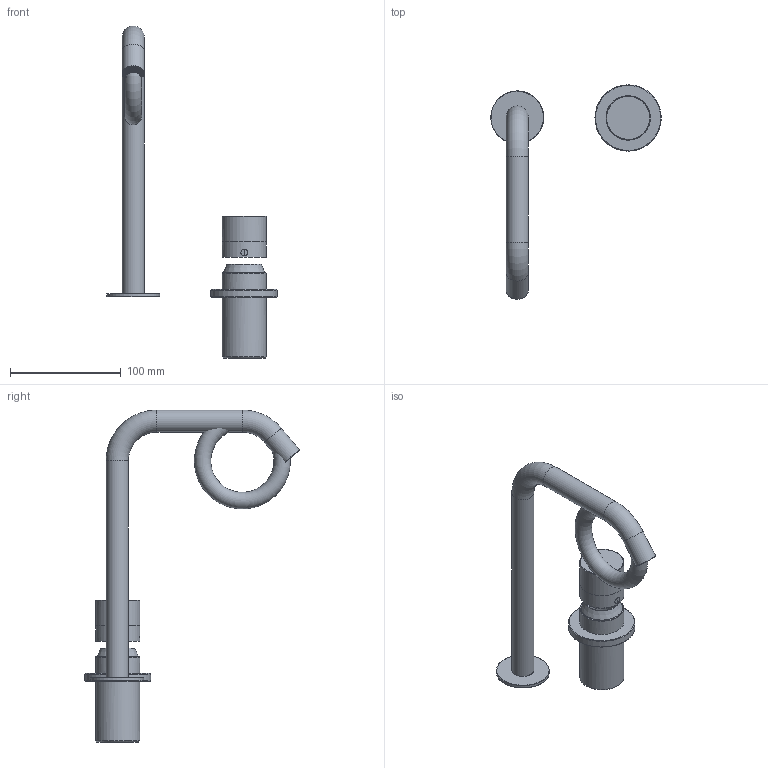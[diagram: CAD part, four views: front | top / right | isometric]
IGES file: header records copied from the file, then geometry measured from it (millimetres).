
Start section: Data from Parasolid IGES Translator 22.0.50, Copyright(c) 2006 Siemens P LM Software. All Rights Reserved.
Global section: file name: noorth-taps-H 24,5 D 18,8 W 14_2560-5841.igs; native system: By Siemens PLM Incorporated; preprocessor: XPlus GENERIC/IGES 22.0.50; author: Noname; organization: Noname; date: 20260215.163821; units: metre
Bounding box: 154.31 x 194.28 x 300.3 mm (x, y, z)
Volume: 223747.2 mm3; surface area: 89452.2 mm2
Topology: 5 solids, 5 shells, 461 faces, 3576 edges, 3513 vertices
Faces by surface type: extrusion 159, revolution 157, bspline 79, cone 24, cylinder 24, plane 15, torus 3
Full cylindrical faces by diameter (mm): 15 x3, 16.5 x1, 20 x3, 23.6 x1, 30 x1, 35.2 x1, 36 x1, 37 x1, 40 x4, 48 x1, 60 x1
